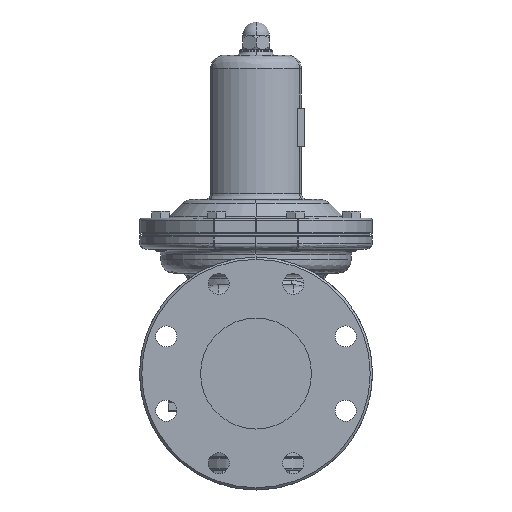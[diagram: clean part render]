
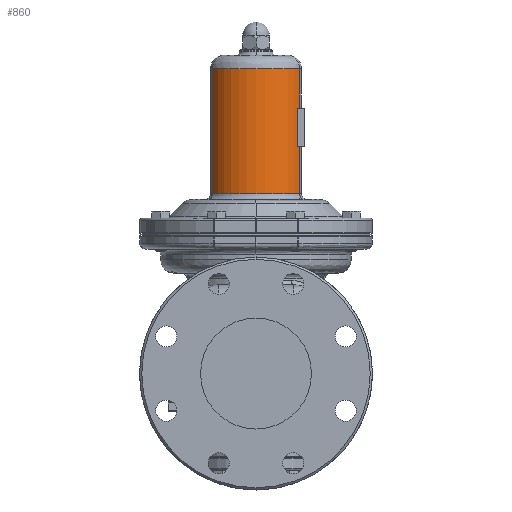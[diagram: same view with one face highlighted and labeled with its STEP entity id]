
A CAD part, left-side view. The second image highlights one B-rep face of the part: STEP entity #860.
In plain terms, the highlighted cylindrical face has radius 46 mm (diameter 92 mm), a partial arc.
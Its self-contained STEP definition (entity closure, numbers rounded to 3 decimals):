
#860=ADVANCED_FACE('',(#5476),#5475,.T.);
#5475=CYLINDRICAL_SURFACE('',#13352,46.);
#5476=FACE_OUTER_BOUND('',#13353,.T.);
#13349=CARTESIAN_POINT('',(0.,0.,0.));
#13350=DIRECTION('',(0.,0.,1.));
#13351=DIRECTION('',(1.,0.,0.));
#13352=AXIS2_PLACEMENT_3D('',#13349,#13350,#13351);
#13353=EDGE_LOOP('',(#17124,#17125,#17126,#17127,#17128,#17129,#17130,#17131));
#17124=ORIENTED_EDGE('',*,*,#19061,.F.);
#17125=ORIENTED_EDGE('',*,*,#19059,.F.);
#17126=ORIENTED_EDGE('',*,*,#19054,.F.);
#17127=ORIENTED_EDGE('',*,*,#19012,.T.);
#17128=ORIENTED_EDGE('',*,*,#19014,.T.);
#17129=ORIENTED_EDGE('',*,*,#18998,.T.);
#17130=ORIENTED_EDGE('',*,*,#18986,.T.);
#17131=ORIENTED_EDGE('',*,*,#18980,.T.);
#18980=EDGE_CURVE('',#26879,#26872,#26880,.T.);
#18986=EDGE_CURVE('',#26892,#26879,#26917,.T.);
#18998=EDGE_CURVE('',#26980,#26892,#26993,.T.);
#19012=EDGE_CURVE('',#27078,#27058,#27085,.T.);
#19014=EDGE_CURVE('',#27058,#26980,#27097,.T.);
#19054=EDGE_CURVE('',#27078,#27354,#27355,.T.);
#19059=EDGE_CURVE('',#27354,#27387,#27388,.T.);
#19061=EDGE_CURVE('',#27387,#26872,#27400,.T.);
#26872=VERTEX_POINT('',#37482);
#26879=VERTEX_POINT('',#37487);
#26880=LINE('',#37488,#37489);
#26892=VERTEX_POINT('',#37495);
#26917=CIRCLE('',#37515,46.);
#26980=VERTEX_POINT('',#37555);
#26993=LINE('',#37564,#37565);
#27058=VERTEX_POINT('',#37606);
#27078=VERTEX_POINT('',#37620);
#27085=LINE('',#37625,#37626);
#27097=CIRCLE('',#37635,46.);
#27354=VERTEX_POINT('',#37800);
#27355=CIRCLE('',#37804,46.);
#27387=VERTEX_POINT('',#37819);
#27388=LINE('',#37820,#37821);
#27400=CIRCLE('',#37829,46.);
#37482=CARTESIAN_POINT('',(-24.012,-39.235,78.75));
#37487=CARTESIAN_POINT('',(-24.012,-39.235,36.));
#37488=CARTESIAN_POINT('',(-24.012,-39.235,36.));
#37489=VECTOR('',#37490,42.75);
#37490=DIRECTION('',(0.,0.,1.));
#37495=CARTESIAN_POINT('',(-24.012,39.235,36.));
#37512=CARTESIAN_POINT('',(0.,0.,36.));
#37513=DIRECTION('',(0.,0.,1.));
#37514=DIRECTION('',(-0.522,0.853,0.));
#37515=AXIS2_PLACEMENT_3D('',#37512,#37513,#37514);
#37555=CARTESIAN_POINT('',(-24.012,39.235,149.));
#37564=CARTESIAN_POINT('',(-24.012,39.235,149.));
#37565=VECTOR('',#37566,113.);
#37566=DIRECTION('',(0.,0.,-1.));
#37606=CARTESIAN_POINT('',(-24.012,-39.235,149.));
#37620=CARTESIAN_POINT('',(-24.012,-39.235,113.25));
#37625=CARTESIAN_POINT('',(-24.012,-39.235,113.25));
#37626=VECTOR('',#37627,35.75);
#37627=DIRECTION('',(0.,0.,1.));
#37632=CARTESIAN_POINT('',(0.,0.,149.));
#37633=DIRECTION('',(0.,0.,-1.));
#37634=DIRECTION('',(-0.522,0.853,0.));
#37635=AXIS2_PLACEMENT_3D('',#37632,#37633,#37634);
#37800=CARTESIAN_POINT('',(-26.5,-37.6,113.25));
#37801=CARTESIAN_POINT('',(0.,0.,113.25));
#37802=DIRECTION('',(0.,0.,-1.));
#37803=DIRECTION('',(-1.,0.,0.));
#37804=AXIS2_PLACEMENT_3D('',#37801,#37802,#37803);
#37819=CARTESIAN_POINT('',(-26.5,-37.6,78.75));
#37820=CARTESIAN_POINT('',(-26.5,-37.6,113.25));
#37821=VECTOR('',#37822,34.5);
#37822=DIRECTION('',(0.,0.,-1.));
#37826=CARTESIAN_POINT('',(0.,0.,78.75));
#37827=DIRECTION('',(0.,0.,1.));
#37828=DIRECTION('',(1.,0.,0.));
#37829=AXIS2_PLACEMENT_3D('',#37826,#37827,#37828);
